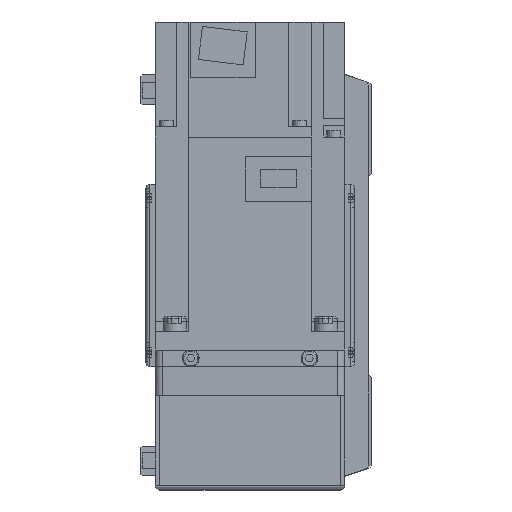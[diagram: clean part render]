
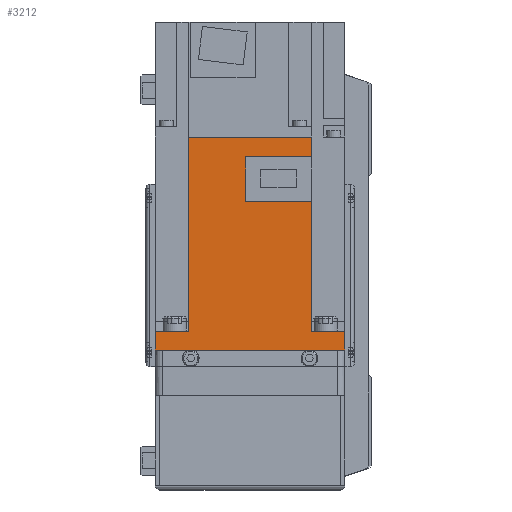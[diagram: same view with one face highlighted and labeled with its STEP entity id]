
A CAD part, left-side view. The second image highlights one B-rep face of the part: STEP entity #3212.
In plain terms, the highlighted planar face has unit normal (-1, 0, 0) as drawn and (1, 0, 0) by its records, which use the part's own axes.
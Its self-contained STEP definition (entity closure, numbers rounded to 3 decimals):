
#3212 = ADVANCED_FACE( '', ( #6752 ), #6753, .F. );
#6752 = FACE_OUTER_BOUND( '', #10370, .T. );
#6753 = PLANE( '', #10371 );
#10370 = EDGE_LOOP( '', ( #19441, #19442, #19443, #19444, #19445, #19446, #19447, #19448, #19449, #19450, #19451, #19452 ) );
#10371 = AXIS2_PLACEMENT_3D( '', #19453, #19454, #19455 );
#19441 = ORIENTED_EDGE( '', *, *, #21860, .F. );
#19442 = ORIENTED_EDGE( '', *, *, #21897, .F. );
#19443 = ORIENTED_EDGE( '', *, *, #22181, .F. );
#19444 = ORIENTED_EDGE( '', *, *, #23791, .T. );
#19445 = ORIENTED_EDGE( '', *, *, #23553, .F. );
#19446 = ORIENTED_EDGE( '', *, *, #23230, .T. );
#19447 = ORIENTED_EDGE( '', *, *, #23865, .T. );
#19448 = ORIENTED_EDGE( '', *, *, #23581, .F. );
#19449 = ORIENTED_EDGE( '', *, *, #23153, .F. );
#19450 = ORIENTED_EDGE( '', *, *, #21898, .F. );
#19451 = ORIENTED_EDGE( '', *, *, #22797, .F. );
#19452 = ORIENTED_EDGE( '', *, *, #20370, .F. );
#19453 = CARTESIAN_POINT( '', ( 40., 89.8, 40. ) );
#19454 = DIRECTION( '', ( -1., 0., 0. ) );
#19455 = DIRECTION( '', ( 0., 0., 1. ) );
#20370 = EDGE_CURVE( '', #24133, #24134, #24135, .T. );
#21860 = EDGE_CURVE( '', #26083, #24133, #26658, .T. );
#21897 = EDGE_CURVE( '', #26717, #26083, #26719, .T. );
#21898 = EDGE_CURVE( '', #26084, #26720, #26721, .T. );
#22181 = EDGE_CURVE( '', #27166, #26717, #27168, .T. );
#22797 = EDGE_CURVE( '', #24134, #26084, #28069, .T. );
#23153 = EDGE_CURVE( '', #26720, #28550, #28551, .T. );
#23230 = EDGE_CURVE( '', #28651, #28649, #28652, .T. );
#23553 = EDGE_CURVE( '', #28651, #29052, #29053, .T. );
#23581 = EDGE_CURVE( '', #28550, #29090, #29091, .T. );
#23791 = EDGE_CURVE( '', #27166, #29052, #29328, .T. );
#23865 = EDGE_CURVE( '', #28649, #29090, #29410, .T. );
#24133 = VERTEX_POINT( '', #29718 );
#24134 = VERTEX_POINT( '', #29719 );
#24135 = LINE( '', #29720, #29721 );
#26083 = VERTEX_POINT( '', #32849 );
#26084 = VERTEX_POINT( '', #32850 );
#26658 = LINE( '', #33702, #33703 );
#26717 = VERTEX_POINT( '', #33784 );
#26719 = LINE( '', #33787, #33788 );
#26720 = VERTEX_POINT( '', #33789 );
#26721 = LINE( '', #33790, #33791 );
#27166 = VERTEX_POINT( '', #34430 );
#27168 = LINE( '', #34433, #34434 );
#28069 = LINE( '', #35762, #35763 );
#28550 = VERTEX_POINT( '', #36527 );
#28551 = LINE( '', #36528, #36529 );
#28649 = VERTEX_POINT( '', #36705 );
#28651 = VERTEX_POINT( '', #36708 );
#28652 = LINE( '', #36709, #36710 );
#29052 = VERTEX_POINT( '', #37357 );
#29053 = LINE( '', #37358, #37359 );
#29090 = VERTEX_POINT( '', #37402 );
#29091 = LINE( '', #37403, #37404 );
#29328 = LINE( '', #37791, #37792 );
#29410 = LINE( '', #37933, #37934 );
#29718 = CARTESIAN_POINT( '', ( 40., 81.4, 1.8 ) );
#29719 = CARTESIAN_POINT( '', ( 40., 62.8, 1.8 ) );
#29720 = CARTESIAN_POINT( '', ( 40., 81.4, 1.8 ) );
#29721 = VECTOR( '', #38190, 1000. );
#32849 = CARTESIAN_POINT( '', ( 40., 81.4, -25.95 ) );
#32850 = CARTESIAN_POINT( '', ( 40., 62.8, -25.95 ) );
#33702 = CARTESIAN_POINT( '', ( 40., 81.4, -26. ) );
#33703 = VECTOR( '', #40083, 1000. );
#33784 = CARTESIAN_POINT( '', ( 40., 89.8, -25.95 ) );
#33787 = CARTESIAN_POINT( '', ( 40., 158., -25.95 ) );
#33788 = VECTOR( '', #40122, 1000. );
#33789 = CARTESIAN_POINT( '', ( 40., 8., -25.95 ) );
#33790 = CARTESIAN_POINT( '', ( 40., 158., -25.95 ) );
#33791 = VECTOR( '', #40123, 1000. );
#34430 = CARTESIAN_POINT( '', ( 40., 89.8, 25.95 ) );
#34433 = CARTESIAN_POINT( '', ( 40., 89.8, 40. ) );
#34434 = VECTOR( '', #40522, 1000. );
#35762 = CARTESIAN_POINT( '', ( 40., 62.8, 1.8 ) );
#35763 = VECTOR( '', #41286, 1000. );
#36527 = CARTESIAN_POINT( '', ( 40., 8., -40. ) );
#36528 = CARTESIAN_POINT( '', ( 40., 8., 40. ) );
#36529 = VECTOR( '', #41688, 1000. );
#36705 = CARTESIAN_POINT( '', ( 40., 0., 40. ) );
#36708 = CARTESIAN_POINT( '', ( 40., 8., 40. ) );
#36709 = CARTESIAN_POINT( '', ( 40., 89.8, 40. ) );
#36710 = VECTOR( '', #41752, 1000. );
#37357 = CARTESIAN_POINT( '', ( 40., 8., 25.95 ) );
#37358 = CARTESIAN_POINT( '', ( 40., 8., 40. ) );
#37359 = VECTOR( '', #42068, 1000. );
#37402 = CARTESIAN_POINT( '', ( 40., 0., -40. ) );
#37403 = CARTESIAN_POINT( '', ( 40., 89.8, -40. ) );
#37404 = VECTOR( '', #42108, 1000. );
#37791 = CARTESIAN_POINT( '', ( 40., 158., 25.95 ) );
#37792 = VECTOR( '', #42294, 1000. );
#37933 = CARTESIAN_POINT( '', ( 40., 0., 40. ) );
#37934 = VECTOR( '', #42335, 1000. );
#38190 = DIRECTION( '', ( 0., -1., 0. ) );
#40083 = DIRECTION( '', ( 0., 0., 1. ) );
#40122 = DIRECTION( '', ( 0., -1., 0. ) );
#40123 = DIRECTION( '', ( 0., -1., 0. ) );
#40522 = DIRECTION( '', ( 0., 0., -1. ) );
#41286 = DIRECTION( '', ( 0., 0., -1. ) );
#41688 = DIRECTION( '', ( 0., 0., -1. ) );
#41752 = DIRECTION( '', ( 0., -1., 0. ) );
#42068 = DIRECTION( '', ( 0., 0., -1. ) );
#42108 = DIRECTION( '', ( 0., -1., 0. ) );
#42294 = DIRECTION( '', ( 0., -1., 0. ) );
#42335 = DIRECTION( '', ( 0., 0., -1. ) );
